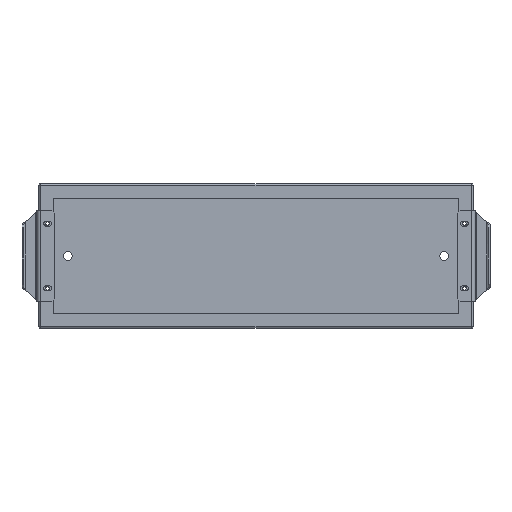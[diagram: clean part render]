
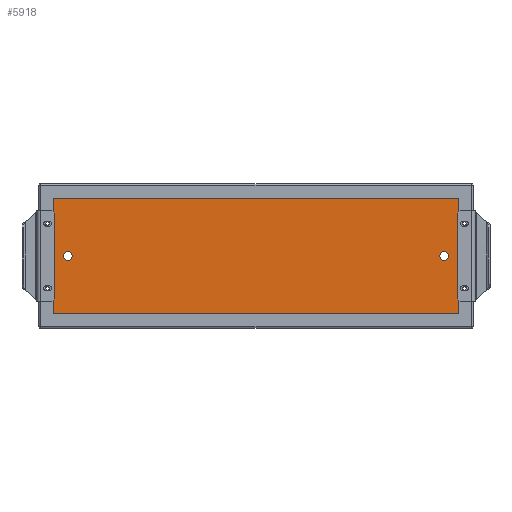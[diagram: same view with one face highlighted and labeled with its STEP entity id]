
A CAD part, top view. The second image highlights one B-rep face of the part: STEP entity #5918.
In plain terms, the highlighted planar face has unit normal (0, 0, 1).
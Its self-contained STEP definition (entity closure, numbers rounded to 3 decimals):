
#11 = CARTESIAN_POINT ( 'NONE',  ( 214.2, 33.5, 2. ) ) ;
#19 = DIRECTION ( 'NONE',  ( -1., 0., 0. ) ) ;
#22 = CARTESIAN_POINT ( 'NONE',  ( -190.5, 0., 2. ) ) ;
#79 = DIRECTION ( 'NONE',  ( 1., 0., 0. ) ) ;
#81 = DIRECTION ( 'NONE',  ( 0., 0., 1. ) ) ;
#100 = CARTESIAN_POINT ( 'NONE',  ( -223., 73., 2. ) ) ;
#134 = DIRECTION ( 'NONE',  ( 1., 0., 0. ) ) ;
#149 = DIRECTION ( 'NONE',  ( 0., 0., 1. ) ) ;
#157 = CARTESIAN_POINT ( 'NONE',  ( 216., 33.5, 2. ) ) ;
#159 = DIRECTION ( 'NONE',  ( 0., 0., -1. ) ) ;
#161 = DIRECTION ( 'NONE',  ( 0., 1., 0. ) ) ;
#205 = DIRECTION ( 'NONE',  ( -1., 0., 0. ) ) ;
#225 = CARTESIAN_POINT ( 'NONE',  ( 195., 0., 2. ) ) ;
#237 = DIRECTION ( 'NONE',  ( 0., 0., -1. ) ) ;
#255 = CARTESIAN_POINT ( 'NONE',  ( 0., -73., 2. ) ) ;
#259 = DIRECTION ( 'NONE',  ( 0., 0., 1. ) ) ;
#299 = CARTESIAN_POINT ( 'NONE',  ( -195., 0., 2. ) ) ;
#314 = CARTESIAN_POINT ( 'NONE',  ( 216., 33.5, 2. ) ) ;
#365 = CARTESIAN_POINT ( 'NONE',  ( 214.2, -33.5, 2. ) ) ;
#370 = DIRECTION ( 'NONE',  ( 0., 0., -1. ) ) ;
#378 = DIRECTION ( 'NONE',  ( 1., 0., 0. ) ) ;
#401 = DIRECTION ( 'NONE',  ( 1., 0., 0. ) ) ;
#408 = CARTESIAN_POINT ( 'NONE',  ( 223., -73., 2. ) ) ;
#418 = CARTESIAN_POINT ( 'NONE',  ( -214.2, 33.5, 2. ) ) ;
#428 = CARTESIAN_POINT ( 'NONE',  ( -217.8, -33.5, 2. ) ) ;
#429 = DIRECTION ( 'NONE',  ( -1., 0., 0. ) ) ;
#436 = CARTESIAN_POINT ( 'NONE',  ( -216., 33.5, 2. ) ) ;
#439 = CARTESIAN_POINT ( 'NONE',  ( 195., 0., 2. ) ) ;
#441 = ORIENTED_EDGE ( 'NONE', *, *, #5388, .F. ) ;
#449 = CARTESIAN_POINT ( 'NONE',  ( 217.8, -33.5, 2. ) ) ;
#482 = ORIENTED_EDGE ( 'NONE', *, *, #5133, .T. ) ;
#487 = DIRECTION ( 'NONE',  ( 0., 0., 1. ) ) ;
#493 = DIRECTION ( 'NONE',  ( 1., 0., 0. ) ) ;
#512 = CARTESIAN_POINT ( 'NONE',  ( 223., -75., 2. ) ) ;
#513 = DIRECTION ( 'NONE',  ( 1., 0., 0. ) ) ;
#514 = CARTESIAN_POINT ( 'NONE',  ( -223., -73., 2. ) ) ;
#516 = CARTESIAN_POINT ( 'NONE',  ( -217.8, 33.5, 2. ) ) ;
#530 = CARTESIAN_POINT ( 'NONE',  ( 217.8, 33.5, 2. ) ) ;
#532 = CARTESIAN_POINT ( 'NONE',  ( 225., 73., 2. ) ) ;
#543 = CARTESIAN_POINT ( 'NONE',  ( 216., -33.5, 2. ) ) ;
#556 = CARTESIAN_POINT ( 'NONE',  ( -223., 0., 2. ) ) ;
#671 = CARTESIAN_POINT ( 'NONE',  ( 190.5, 0., 2. ) ) ;
#675 = CARTESIAN_POINT ( 'NONE',  ( 216., -33.5, 2. ) ) ;
#684 = CARTESIAN_POINT ( 'NONE',  ( -216., 33.5, 2. ) ) ;
#692 = CARTESIAN_POINT ( 'NONE',  ( -216., -33.5, 2. ) ) ;
#706 = DIRECTION ( 'NONE',  ( 0., 0., 1. ) ) ;
#714 = DIRECTION ( 'NONE',  ( 1., 0., 0. ) ) ;
#756 = DIRECTION ( 'NONE',  ( 0., 0., -1. ) ) ;
#767 = DIRECTION ( 'NONE',  ( 0., 0., 1. ) ) ;
#799 = DIRECTION ( 'NONE',  ( 0., 1., 0. ) ) ;
#805 = DIRECTION ( 'NONE',  ( 1., 0., 0. ) ) ;
#836 = DIRECTION ( 'NONE',  ( -1., 0., 0. ) ) ;
#843 = CARTESIAN_POINT ( 'NONE',  ( 223., 73., 2. ) ) ;
#853 = DIRECTION ( 'NONE',  ( 0., 0., -1. ) ) ;
#912 = DIRECTION ( 'NONE',  ( 0., 0., -1. ) ) ;
#920 = CARTESIAN_POINT ( 'NONE',  ( -199.5, 0., 2. ) ) ;
#922 = LINE ( 'NONE', #556, #4405 ) ;
#933 = CARTESIAN_POINT ( 'NONE',  ( 199.5, 0., 2. ) ) ;
#953 = DIRECTION ( 'NONE',  ( 1., 0., 0. ) ) ;
#976 = LINE ( 'NONE', #532, #4573 ) ;
#986 = CARTESIAN_POINT ( 'NONE',  ( -214.2, -33.5, 2. ) ) ;
#1003 = LINE ( 'NONE', #255, #4489 ) ;
#1014 = CARTESIAN_POINT ( 'NONE',  ( -216., -33.5, 2. ) ) ;
#1018 = CARTESIAN_POINT ( 'NONE',  ( -195., 0., 2. ) ) ;
#1026 = DIRECTION ( 'NONE',  ( 1., 0., 0. ) ) ;
#1126 = LINE ( 'NONE', #512, #4456 ) ;
#1128 = ORIENTED_EDGE ( 'NONE', *, *, #5414, .T. ) ;
#1133 = ORIENTED_EDGE ( 'NONE', *, *, #5278, .T. ) ;
#1145 = ORIENTED_EDGE ( 'NONE', *, *, #5168, .T. ) ;
#1146 = ORIENTED_EDGE ( 'NONE', *, *, #5147, .F. ) ;
#1151 = ORIENTED_EDGE ( 'NONE', *, *, #5264, .F. ) ;
#1180 = ORIENTED_EDGE ( 'NONE', *, *, #5454, .F. ) ;
#1185 = ORIENTED_EDGE ( 'NONE', *, *, #5152, .F. ) ;
#1186 = ORIENTED_EDGE ( 'NONE', *, *, #5470, .F. ) ;
#1192 = ORIENTED_EDGE ( 'NONE', *, *, #5136, .F. ) ;
#1337 = ORIENTED_EDGE ( 'NONE', *, *, #5151, .T. ) ;
#1415 = ORIENTED_EDGE ( 'NONE', *, *, #5146, .T. ) ;
#1421 = ORIENTED_EDGE ( 'NONE', *, *, #5476, .F. ) ;
#1442 = ORIENTED_EDGE ( 'NONE', *, *, #5177, .T. ) ;
#1508 = ORIENTED_EDGE ( 'NONE', *, *, #5402, .T. ) ;
#1676 = EDGE_LOOP ( 'NONE', ( #1442, #1133 ) ) ;
#1677 = EDGE_LOOP ( 'NONE', ( #482, #1180, #441, #1128 ) ) ;
#1678 = EDGE_LOOP ( 'NONE', ( #1186, #1185 ) ) ;
#1679 = EDGE_LOOP ( 'NONE', ( #1151, #1421 ) ) ;
#1680 = EDGE_LOOP ( 'NONE', ( #1145, #1337 ) ) ;
#1681 = EDGE_LOOP ( 'NONE', ( #1146, #1192 ) ) ;
#1682 = EDGE_LOOP ( 'NONE', ( #1415, #1508 ) ) ;
#1809 = VERTEX_POINT ( 'NONE', #530 ) ;
#1870 = VERTEX_POINT ( 'NONE', #449 ) ;
#1889 = VERTEX_POINT ( 'NONE', #933 ) ;
#1899 = VERTEX_POINT ( 'NONE', #843 ) ;
#1904 = VERTEX_POINT ( 'NONE', #365 ) ;
#1933 = VERTEX_POINT ( 'NONE', #408 ) ;
#2013 = VERTEX_POINT ( 'NONE', #920 ) ;
#2021 = VERTEX_POINT ( 'NONE', #11 ) ;
#2026 = VERTEX_POINT ( 'NONE', #428 ) ;
#2037 = VERTEX_POINT ( 'NONE', #671 ) ;
#2065 = VERTEX_POINT ( 'NONE', #986 ) ;
#2122 = VERTEX_POINT ( 'NONE', #514 ) ;
#2128 = VERTEX_POINT ( 'NONE', #22 ) ;
#2135 = VERTEX_POINT ( 'NONE', #516 ) ;
#2143 = VERTEX_POINT ( 'NONE', #418 ) ;
#2298 = FACE_BOUND ( 'NONE', #1676, .T. ) ;
#2378 = AXIS2_PLACEMENT_3D ( 'NONE', #3967, #3960, #3955 ) ;
#2389 = FACE_BOUND ( 'NONE', #1681, .T. ) ;
#2393 = FACE_BOUND ( 'NONE', #1679, .T. ) ;
#2397 = FACE_BOUND ( 'NONE', #1678, .T. ) ;
#2410 = FACE_OUTER_BOUND ( 'NONE', #1677, .T. ) ;
#2425 = FACE_BOUND ( 'NONE', #1680, .T. ) ;
#2447 = FACE_BOUND ( 'NONE', #1682, .T. ) ;
#3955 = DIRECTION ( 'NONE',  ( 1., 0., 0. ) ) ;
#3960 = DIRECTION ( 'NONE',  ( 0., 0., 1. ) ) ;
#3962 = PLANE ( 'NONE',  #2378 ) ;
#3967 = CARTESIAN_POINT ( 'NONE',  ( 0., 0., 2. ) ) ;
#4158 = VERTEX_POINT ( 'NONE', #100 ) ;
#4383 = AXIS2_PLACEMENT_3D ( 'NONE', #157, #259, #1026 ) ;
#4392 = AXIS2_PLACEMENT_3D ( 'NONE', #675, #767, #805 ) ;
#4405 = VECTOR ( 'NONE', #799, 1000. ) ;
#4416 = AXIS2_PLACEMENT_3D ( 'NONE', #225, #149, #493 ) ;
#4456 = VECTOR ( 'NONE', #161, 1000. ) ;
#4481 = AXIS2_PLACEMENT_3D ( 'NONE', #1018, #912, #836 ) ;
#4489 = VECTOR ( 'NONE', #429, 1000. ) ;
#4573 = VECTOR ( 'NONE', #205, 1000. ) ;
#4626 = AXIS2_PLACEMENT_3D ( 'NONE', #314, #706, #953 ) ;
#4756 = AXIS2_PLACEMENT_3D ( 'NONE', #299, #853, #19 ) ;
#4840 = AXIS2_PLACEMENT_3D ( 'NONE', #436, #237, #714 ) ;
#4874 = AXIS2_PLACEMENT_3D ( 'NONE', #684, #756, #134 ) ;
#4936 = AXIS2_PLACEMENT_3D ( 'NONE', #439, #81, #378 ) ;
#4941 = AXIS2_PLACEMENT_3D ( 'NONE', #1014, #370, #79 ) ;
#4951 = AXIS2_PLACEMENT_3D ( 'NONE', #543, #487, #513 ) ;
#5070 = AXIS2_PLACEMENT_3D ( 'NONE', #692, #159, #401 ) ;
#5133 = EDGE_CURVE ( 'NONE', #1899, #4158, #976, .T. ) ;
#5136 = EDGE_CURVE ( 'NONE', #2037, #1889, #5465, .T. ) ;
#5146 = EDGE_CURVE ( 'NONE', #2128, #2013, #5441, .T. ) ;
#5147 = EDGE_CURVE ( 'NONE', #1889, #2037, #5443, .T. ) ;
#5151 = EDGE_CURVE ( 'NONE', #2026, #2065, #5438, .T. ) ;
#5152 = EDGE_CURVE ( 'NONE', #1904, #1870, #5437, .T. ) ;
#5168 = EDGE_CURVE ( 'NONE', #2065, #2026, #5503, .T. ) ;
#5177 = EDGE_CURVE ( 'NONE', #2143, #2135, #5471, .T. ) ;
#5264 = EDGE_CURVE ( 'NONE', #1809, #2021, #5420, .T. ) ;
#5278 = EDGE_CURVE ( 'NONE', #2135, #2143, #5433, .T. ) ;
#5325 = CIRCLE ( 'NONE', #4481, 4.5 ) ;
#5340 = CIRCLE ( 'NONE', #4392, 1.8 ) ;
#5343 = CIRCLE ( 'NONE', #4383, 1.8 ) ;
#5388 = EDGE_CURVE ( 'NONE', #1933, #2122, #1003, .T. ) ;
#5402 = EDGE_CURVE ( 'NONE', #2013, #2128, #5325, .T. ) ;
#5414 = EDGE_CURVE ( 'NONE', #1933, #1899, #1126, .T. ) ;
#5420 = CIRCLE ( 'NONE', #4626, 1.8 ) ;
#5433 = CIRCLE ( 'NONE', #4874, 1.8 ) ;
#5437 = CIRCLE ( 'NONE', #4951, 1.8 ) ;
#5438 = CIRCLE ( 'NONE', #5070, 1.8 ) ;
#5441 = CIRCLE ( 'NONE', #4756, 4.5 ) ;
#5443 = CIRCLE ( 'NONE', #4936, 4.5 ) ;
#5454 = EDGE_CURVE ( 'NONE', #2122, #4158, #922, .T. ) ;
#5465 = CIRCLE ( 'NONE', #4416, 4.5 ) ;
#5470 = EDGE_CURVE ( 'NONE', #1870, #1904, #5340, .T. ) ;
#5471 = CIRCLE ( 'NONE', #4840, 1.8 ) ;
#5476 = EDGE_CURVE ( 'NONE', #2021, #1809, #5343, .T. ) ;
#5503 = CIRCLE ( 'NONE', #4941, 1.8 ) ;
#5918 = ADVANCED_FACE ( 'NONE', ( #2298, #2410, #2397, #2393, #2425, #2389, #2447 ), #3962, .T. ) ;
